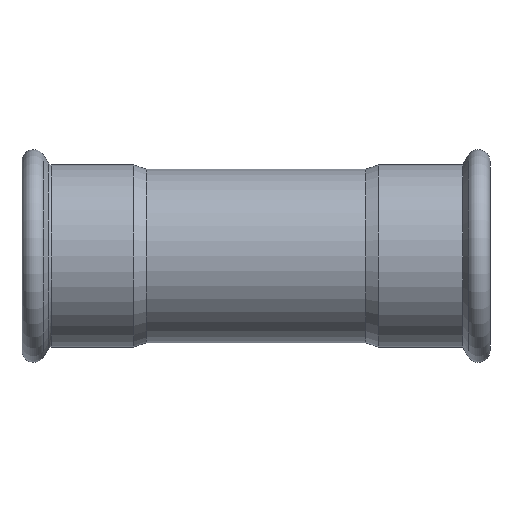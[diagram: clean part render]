
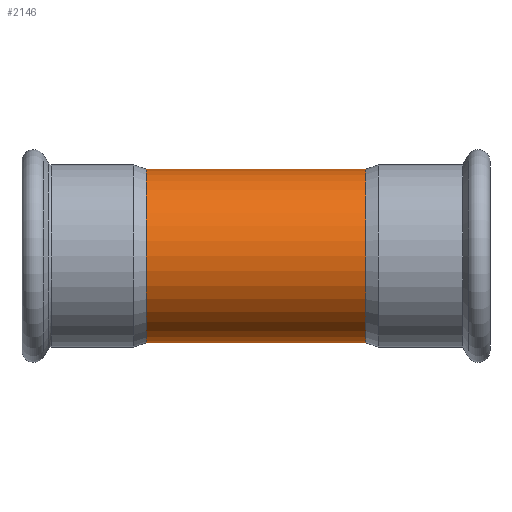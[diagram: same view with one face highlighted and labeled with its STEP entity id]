
A CAD part, front view. The second image highlights one B-rep face of the part: STEP entity #2146.
In plain terms, the highlighted cylindrical face has radius 44.45 mm (diameter 88.9 mm), a full revolution.
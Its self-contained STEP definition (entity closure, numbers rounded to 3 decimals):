
#1935=CARTESIAN_POINT('',(0.,38.618,22.01));
#1936=VERTEX_POINT('',#1935);
#2020=CARTESIAN_POINT('',(0.,38.618,22.01));
#2021=CARTESIAN_POINT('',(0.218,38.618,22.01));
#2022=CARTESIAN_POINT('',(1.089,38.625,21.998));
#2023=CARTESIAN_POINT('',(2.833,38.693,21.879));
#2024=CARTESIAN_POINT('',(5.189,38.911,21.491));
#2025=CARTESIAN_POINT('',(7.484,39.26,20.85));
#2026=CARTESIAN_POINT('',(9.076,39.578,20.237));
#2027=CARTESIAN_POINT('',(10.622,39.925,19.544));
#2028=CARTESIAN_POINT('',(12.306,40.358,18.648));
#2029=CARTESIAN_POINT('',(14.219,40.935,17.344));
#2030=CARTESIAN_POINT('',(15.502,41.367,16.275));
#2031=CARTESIAN_POINT('',(16.715,41.795,15.147));
#2032=CARTESIAN_POINT('',(18.172,42.342,13.592));
#2033=CARTESIAN_POINT('',(19.548,42.906,11.676));
#2034=CARTESIAN_POINT('',(20.641,43.375,9.756));
#2035=CARTESIAN_POINT('',(21.583,43.792,7.764));
#2036=CARTESIAN_POINT('',(22.495,44.211,4.978));
#2037=CARTESIAN_POINT('',(22.977,44.439,1.951));
#2038=CARTESIAN_POINT('',(23.022,44.46,-0.28));
#2039=CARTESIAN_POINT('',(22.889,44.398,-2.504));
#2040=CARTESIAN_POINT('',(22.582,44.252,-4.43));
#2041=CARTESIAN_POINT('',(22.012,43.989,-6.438));
#2042=CARTESIAN_POINT('',(21.637,43.819,-7.481));
#2043=CARTESIAN_POINT('',(21.018,43.54,-9.015));
#2044=CARTESIAN_POINT('',(19.95,43.071,-11.118));
#2045=CARTESIAN_POINT('',(18.164,42.339,-13.602));
#2046=CARTESIAN_POINT('',(16.658,41.774,-15.208));
#2047=CARTESIAN_POINT('',(15.034,41.203,-16.703));
#2048=CARTESIAN_POINT('',(13.48,40.7,-17.892));
#2049=CARTESIAN_POINT('',(11.678,40.197,-18.979));
#2050=CARTESIAN_POINT('',(10.681,39.946,-19.499));
#2051=CARTESIAN_POINT('',(9.156,39.587,-20.224));
#2052=CARTESIAN_POINT('',(7.415,39.24,-20.886));
#2053=CARTESIAN_POINT('',(5.319,38.944,-21.43));
#2054=CARTESIAN_POINT('',(4.184,38.822,-21.648));
#2055=CARTESIAN_POINT('',(3.041,38.723,-21.826));
#2056=CARTESIAN_POINT('',(1.741,38.642,-21.968));
#2057=CARTESIAN_POINT('',(-0.586,38.594,-22.052));
#2058=CARTESIAN_POINT('',(-2.91,38.691,-21.882));
#2059=CARTESIAN_POINT('',(-5.19,38.926,-21.463));
#2060=CARTESIAN_POINT('',(-7.412,39.24,-20.886));
#2061=CARTESIAN_POINT('',(-10.093,39.773,-19.869));
#2062=CARTESIAN_POINT('',(-12.568,40.432,-18.489));
#2063=CARTESIAN_POINT('',(-14.377,40.99,-17.205));
#2064=CARTESIAN_POINT('',(-16.088,41.562,-15.795));
#2065=CARTESIAN_POINT('',(-17.637,42.137,-14.201));
#2066=CARTESIAN_POINT('',(-18.988,42.677,-12.455));
#2067=CARTESIAN_POINT('',(-20.402,43.265,-10.318));
#2068=CARTESIAN_POINT('',(-21.601,43.799,-7.807));
#2069=CARTESIAN_POINT('',(-22.391,44.164,-5.152));
#2070=CARTESIAN_POINT('',(-22.758,44.335,-3.33));
#2071=CARTESIAN_POINT('',(-23.021,44.46,-1.12));
#2072=CARTESIAN_POINT('',(-23.022,44.461,1.114));
#2073=CARTESIAN_POINT('',(-22.758,44.335,3.327));
#2074=CARTESIAN_POINT('',(-22.322,44.131,5.505));
#2075=CARTESIAN_POINT('',(-21.629,43.813,7.627));
#2076=CARTESIAN_POINT('',(-20.698,43.4,9.645));
#2077=CARTESIAN_POINT('',(-19.626,42.938,11.566));
#2078=CARTESIAN_POINT('',(-17.691,42.145,14.265));
#2079=CARTESIAN_POINT('',(-15.363,41.299,16.485));
#2080=CARTESIAN_POINT('',(-13.341,40.67,17.942));
#2081=CARTESIAN_POINT('',(-11.932,40.262,18.848));
#2082=CARTESIAN_POINT('',(-10.06,39.781,19.843));
#2083=CARTESIAN_POINT('',(-7.688,39.291,20.793));
#2084=CARTESIAN_POINT('',(-4.362,38.785,21.722));
#2085=CARTESIAN_POINT('',(-1.744,38.618,22.01));
#2086=CARTESIAN_POINT('',(0.,38.618,22.01));
#2087=CARTESIAN_POINT('',(0.,38.618,22.01));
#2088=CARTESIAN_POINT('',(0.,38.618,22.01));
#2089=CARTESIAN_POINT('',(0.,38.618,22.01));
#2090=B_SPLINE_CURVE_WITH_KNOTS('',3,(#2020,#2021,#2022,#2023,#2024,#2025,#2026,#2027,#2028,#2029,#2030,#2031,#2032,#2033,#2034,#2035,#2036,#2037,#2038,#2039,#2040,#2041,#2042,#2043,#2044,#2045,#2046,#2047,#2048,#2049,#2050,#2051,#2052,#2053,#2054,#2055,#2056,#2057,#2058,#2059,#2060,#2061,#2062,#2063,#2064,#2065,#2066,#2067,#2068,#2069,#2070,#2071,#2072,#2073,#2074,#2075,#2076,#2077,#2078,#2079,#2080,#2081,#2082,#2083,#2084,#2085,#2086,#2087,#2088,#2089),.UNSPECIFIED.,.T.,.U.,(4,1,1,1,1,1,1,1,1,1,1,1,1,1,1,1,1,1,1,1,1,1,1,1,1,1,1,1,1,1,1,1,1,1,1,1,1,1,1,1,1,1,1,1,1,1,1,1,1,1,1,1,1,1,1,1,1,1,1,1,1,1,1,1,3,4),(-12.884,-12.827,-12.654,-12.424,-12.194,-12.021,-11.964,-11.734,-11.504,-11.331,-11.274,-11.043,-10.737,-10.622,-10.43,-10.123,-9.816,-9.586,-9.51,-9.203,-9.05,-8.934,-8.896,-8.589,-8.283,-8.053,-7.976,-7.669,-7.516,-7.401,-7.362,-7.056,-6.902,-6.787,-6.749,-6.595,-6.442,-6.135,-5.982,-5.829,-5.522,-5.215,-5.062,-4.908,-4.601,-4.448,-4.295,-3.886,-3.681,-3.528,-3.374,-3.068,-2.914,-2.761,-2.454,-2.301,-2.147,-1.841,-1.38,-1.265,-1.15,-0.92,-0.69,-0.46,0.0,0.),.UNSPECIFIED.);
#2091=EDGE_CURVE('',#1936,#1936,#2090,.T.);
#2116=CARTESIAN_POINT('',(0.,0.,0.0));
#2117=DIRECTION('',(1.0,0.,0.0));
#2118=DIRECTION('',(0.0,1.0,0.0));
#2119=AXIS2_PLACEMENT_3D('',#2116,#2117,#2118);
#2120=CYLINDRICAL_SURFACE('',#2119,44.45);
#2121=CARTESIAN_POINT('',(-56.328,44.45,0.0));
#2122=VERTEX_POINT('',#2121);
#2123=CARTESIAN_POINT('',(-56.328,0.,0.0));
#2124=DIRECTION('',(1.0,0.0,0.0));
#2125=DIRECTION('',(0.0,1.0,0.0));
#2126=AXIS2_PLACEMENT_3D('',#2123,#2124,#2125);
#2127=CIRCLE('',#2126,44.45);
#2128=EDGE_CURVE('',#2122,#2122,#2127,.T.);
#2129=ORIENTED_EDGE('',*,*,#2128,.T.);
#2130=EDGE_LOOP('',(#2129));
#2131=FACE_OUTER_BOUND('',#2130,.T.);
#2132=CARTESIAN_POINT('',(56.328,44.45,0.0));
#2133=VERTEX_POINT('',#2132);
#2134=CARTESIAN_POINT('',(56.328,0.,0.0));
#2135=DIRECTION('',(1.0,0.0,0.0));
#2136=DIRECTION('',(0.0,1.0,0.0));
#2137=AXIS2_PLACEMENT_3D('',#2134,#2135,#2136);
#2138=CIRCLE('',#2137,44.45);
#2139=EDGE_CURVE('',#2133,#2133,#2138,.T.);
#2140=ORIENTED_EDGE('',*,*,#2139,.F.);
#2141=EDGE_LOOP('',(#2140));
#2142=FACE_BOUND('',#2141,.T.);
#2143=ORIENTED_EDGE('',*,*,#2091,.F.);
#2144=EDGE_LOOP('',(#2143));
#2145=FACE_BOUND('',#2144,.T.);
#2146=ADVANCED_FACE('',(#2131,#2142,#2145),#2120,.T.);
